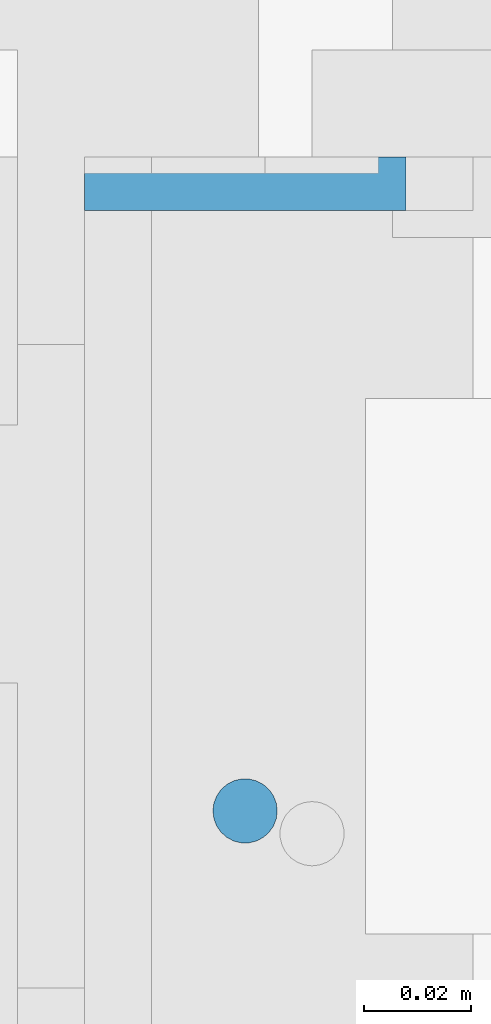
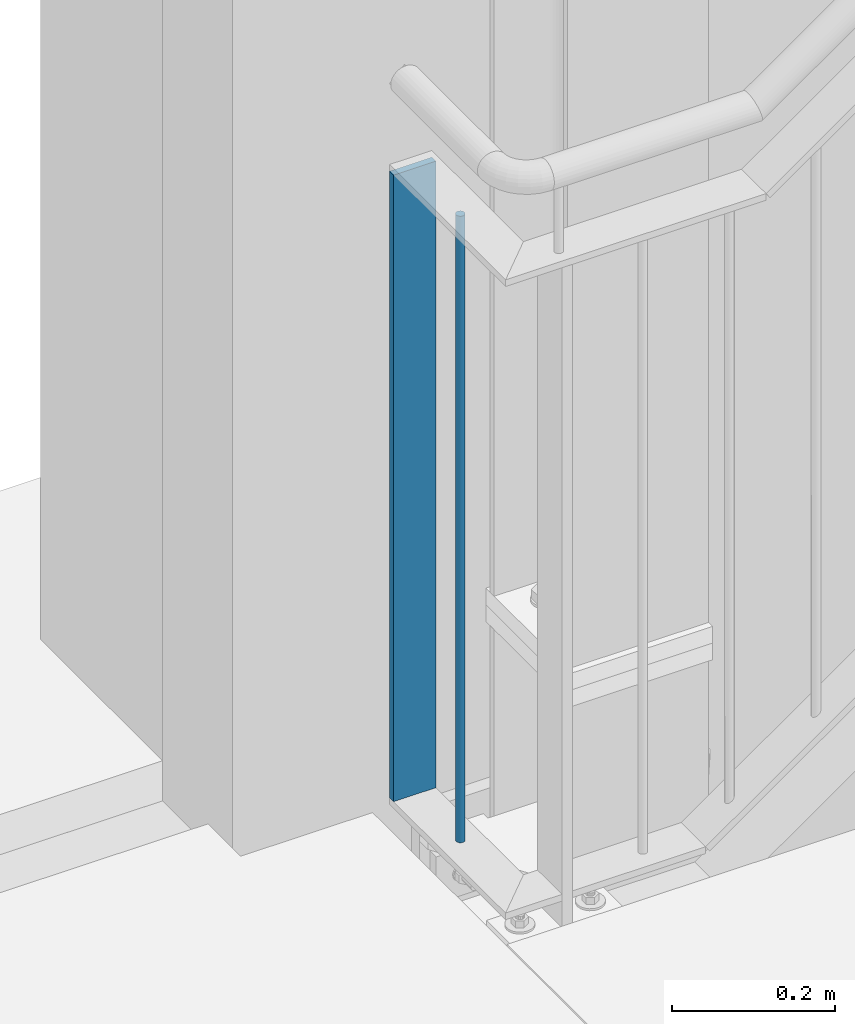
# One storey, part 67 of 821: 2 columns.
"""IFC2X3 building model written with IfcOpenShell, lengths in millimetres."""

from ifc_helpers import new_model, entity, si_unit, converted_unit, frame, origin, origin_with_axes, origin_2d, place, context, project, spatial, rectangle, circle, extrude, clip, halfspace, material, element, save


model = new_model("IFC2X3")

# Units and contexts
model_context = context("Model", 3, precision=1e-09, world=origin_with_axes())
ifc_project = project(units=[si_unit("LENGTHUNIT", "METRE", prefix="MILLI"), si_unit("AREAUNIT", "SQUARE_METRE"), si_unit("VOLUMEUNIT", "CUBIC_METRE"), converted_unit("PLANEANGLEUNIT", "DEGREE", entity("IfcPlaneAngleMeasure", 0.01745329), si_unit("PLANEANGLEUNIT", "RADIAN"), dimensions=[0, 0, 0, 0, 0, 0, 0])], contexts=[model_context])

# Site, building, storey
site_placement = place(None, origin_with_axes())
site = spatial("IfcSite", under=ifc_project, at=site_placement, Name="Cnopf'sche Kinderklinik", CompositionType="ELEMENT")
building_placement = place(site_placement, origin_with_axes())
building = spatial("IfcBuilding", under=site, at=building_placement, Name="Struktur 1", CompositionType="ELEMENT")
storey_placement = place(building_placement, origin_with_axes())
storey = spatial("IfcBuildingStorey", under=building, at=storey_placement, Name="Default Storey", CompositionType="ELEMENT", Elevation=0.0)

# Columns
ifc_material = material(Name="S235JR")
column_1_placement = place(None, frame((4644.213402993, 7606.736971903, 3917.0), z_axis=(0.0, 0.0, -1.0), x_axis=(0.0, -1.0, 0.0)))
element("IfcColumn", 1, at=column_1_placement, inside=storey, material=ifc_material, Name="Railing_Kneerail_Landing#0", ObjectType="Railing_Kneerail_Landing#0", context=model_context, shape_type="SweptSolid", body=[
    extrude(rectangle(XDim=10.0, YDim=60.0, at=origin_2d()), origin(), (0.0, 0.0, -1.0), 938.8),
])
column_2_placement = place(None, frame((4644.213402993, 7489.736971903, 4869.285281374), z_axis=(0.0, 0.0, 1.0), x_axis=(1.0, 0.0, 0.0)))
element("IfcColumn", 2, at=column_2_placement, inside=storey, material=ifc_material, Name="Railing_Picket_Landing#0", ObjectType="Railing_Picket_Landing#0", context=model_context, shape_type="Clipping", body=[
    clip(clip(extrude(circle(Radius=6.0, at=origin_2d()), origin(), (0.0, 0.0, -1.0), 965.770562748), halfspace(frame((-4644.213402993, -7489.736971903, -13.486281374), z_axis=(0.0, 0.0, -1.0), x_axis=(-1.0, 0.0, 0.0)), True)), halfspace(frame((-4644.213402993, -7489.736971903, -952.284281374), z_axis=(0.0, 0.0, 1.0), x_axis=(1.0, 0.0, 0.0)), True)),
])

save(model, "model.ifc")
